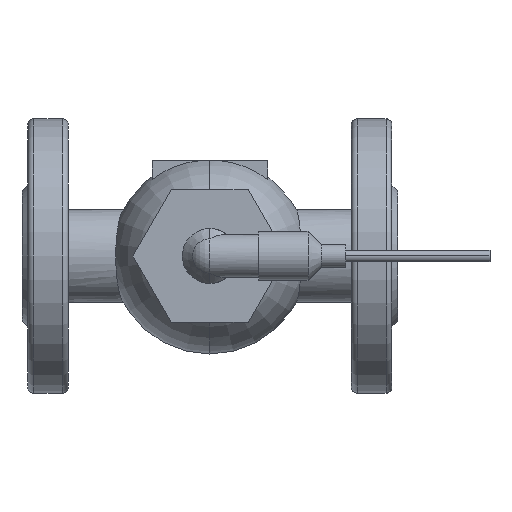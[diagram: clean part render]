
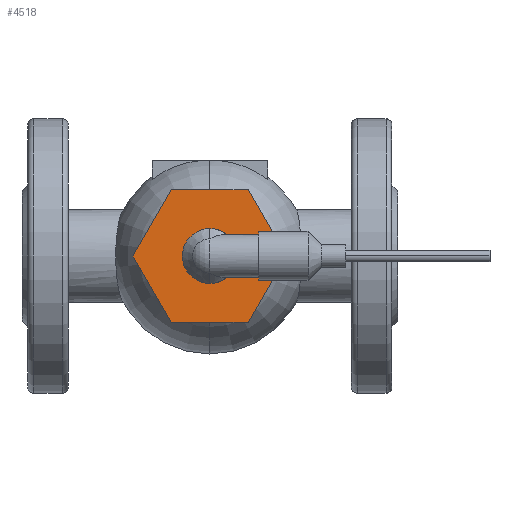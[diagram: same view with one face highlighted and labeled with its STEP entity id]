
A CAD part, front view. The second image highlights one B-rep face of the part: STEP entity #4518.
In plain terms, the highlighted planar face has unit normal (0, -1, 0).
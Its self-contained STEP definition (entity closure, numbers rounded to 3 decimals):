
#592 = DIRECTION ( 'NONE',  ( -1., 0., 0. ) ) ;
#593 = VECTOR ( 'NONE', #592, 1000. ) ;
#594 = CARTESIAN_POINT ( 'NONE',  ( 13.279, -203.585, -23. ) ) ;
#595 = LINE ( 'NONE', #594, #593 ) ;
#709 = CARTESIAN_POINT ( 'NONE',  ( -13.279, -203.585, 23. ) ) ;
#711 = DIRECTION ( 'NONE',  ( 0.5, 0., 0.866 ) ) ;
#712 = VECTOR ( 'NONE', #711, 1000. ) ;
#713 = CARTESIAN_POINT ( 'NONE',  ( -26.558, -203.585, 0. ) ) ;
#714 = LINE ( 'NONE', #713, #712 ) ;
#723 = CARTESIAN_POINT ( 'NONE',  ( -13.279, -203.585, -23. ) ) ;
#738 = CARTESIAN_POINT ( 'NONE',  ( -26.558, -203.585, 0. ) ) ;
#739 = DIRECTION ( 'NONE',  ( -0.5, 0., 0.866 ) ) ;
#740 = VECTOR ( 'NONE', #739, 1000. ) ;
#741 = CARTESIAN_POINT ( 'NONE',  ( -13.279, -203.585, -23. ) ) ;
#742 = LINE ( 'NONE', #741, #740 ) ;
#930 = CARTESIAN_POINT ( 'NONE',  ( 0., -203.585, 8. ) ) ;
#931 = CARTESIAN_POINT ( 'NONE',  ( 0., -203.585, -8. ) ) ;
#932 = DIRECTION ( 'NONE',  ( 0., 0., 1. ) ) ;
#933 = DIRECTION ( 'NONE',  ( 0., -1., 0. ) ) ;
#934 = AXIS2_PLACEMENT_3D ( 'NONE', #941, #933, #932 ) ;
#935 = CIRCLE ( 'NONE', #934, 8. ) ;
#941 = CARTESIAN_POINT ( 'NONE',  ( 0., -203.585, 0. ) ) ;
#1533 = DIRECTION ( 'NONE',  ( 0., 0., 1. ) ) ;
#1534 = DIRECTION ( 'NONE',  ( 0., 1., 0. ) ) ;
#1535 = CARTESIAN_POINT ( 'NONE',  ( 39.837, -203.585, -23. ) ) ;
#1536 = AXIS2_PLACEMENT_3D ( 'NONE', #1535, #1534, #1533 ) ;
#1537 = PLANE ( 'NONE',  #1536 ) ;
#1601 = VECTOR ( 'NONE', #1644, 1000. ) ;
#1602 = CARTESIAN_POINT ( 'NONE',  ( 13.279, -203.585, 23. ) ) ;
#1603 = LINE ( 'NONE', #1602, #1601 ) ;
#1618 = LINE ( 'NONE', #1626, #1625 ) ;
#1623 = CARTESIAN_POINT ( 'NONE',  ( 13.279, -203.585, 23. ) ) ;
#1624 = DIRECTION ( 'NONE',  ( 1., 0., 0. ) ) ;
#1625 = VECTOR ( 'NONE', #1624, 1000. ) ;
#1626 = CARTESIAN_POINT ( 'NONE',  ( -13.279, -203.585, 23. ) ) ;
#1631 = CARTESIAN_POINT ( 'NONE',  ( 13.279, -203.585, -23. ) ) ;
#1632 = DIRECTION ( 'NONE',  ( -0.5, 0., -0.866 ) ) ;
#1633 = VECTOR ( 'NONE', #1632, 1000. ) ;
#1634 = CARTESIAN_POINT ( 'NONE',  ( 26.558, -203.585, 0. ) ) ;
#1635 = LINE ( 'NONE', #1634, #1633 ) ;
#1636 = FACE_OUTER_BOUND ( 'NONE', #4615, .T. ) ;
#1637 = FACE_BOUND ( 'NONE', #4519, .T. ) ;
#1644 = DIRECTION ( 'NONE',  ( 0.5, 0., -0.866 ) ) ;
#1684 = CARTESIAN_POINT ( 'NONE',  ( 26.558, -203.585, 0. ) ) ;
#1807 = DIRECTION ( 'NONE',  ( 0., 0., 1. ) ) ;
#1808 = DIRECTION ( 'NONE',  ( 0., -1., 0. ) ) ;
#1809 = CARTESIAN_POINT ( 'NONE',  ( 0., -203.585, 0. ) ) ;
#1810 = AXIS2_PLACEMENT_3D ( 'NONE', #1809, #1808, #1807 ) ;
#1811 = CIRCLE ( 'NONE', #1810, 8. ) ;
#4107 = VERTEX_POINT ( 'NONE', #723 ) ;
#4125 = EDGE_CURVE ( 'NONE', #4492, #4107, #595, .T. ) ;
#4136 = EDGE_CURVE ( 'NONE', #4107, #4137, #742, .T. ) ;
#4137 = VERTEX_POINT ( 'NONE', #738 ) ;
#4151 = EDGE_CURVE ( 'NONE', #4137, #4152, #714, .T. ) ;
#4152 = VERTEX_POINT ( 'NONE', #709 ) ;
#4267 = EDGE_CURVE ( 'NONE', #4268, #4269, #935, .T. ) ;
#4268 = VERTEX_POINT ( 'NONE', #931 ) ;
#4269 = VERTEX_POINT ( 'NONE', #930 ) ;
#4491 = EDGE_CURVE ( 'NONE', #4607, #4492, #1635, .T. ) ;
#4492 = VERTEX_POINT ( 'NONE', #1631 ) ;
#4507 = EDGE_CURVE ( 'NONE', #4152, #4508, #1618, .T. ) ;
#4508 = VERTEX_POINT ( 'NONE', #1623 ) ;
#4512 = EDGE_CURVE ( 'NONE', #4508, #4607, #1603, .T. ) ;
#4518 = ADVANCED_FACE ( 'NONE', ( #1637, #1636 ), #1537, .F. ) ;
#4519 = EDGE_LOOP ( 'NONE', ( #4520, #4613 ) ) ;
#4520 = ORIENTED_EDGE ( 'NONE', *, *, #4267, .F. ) ;
#4607 = VERTEX_POINT ( 'NONE', #1684 ) ;
#4613 = ORIENTED_EDGE ( 'NONE', *, *, #4614, .F. ) ;
#4614 = EDGE_CURVE ( 'NONE', #4269, #4268, #1811, .T. ) ;
#4615 = EDGE_LOOP ( 'NONE', ( #4616, #4617, #4618, #4619, #4620, #4621 ) ) ;
#4616 = ORIENTED_EDGE ( 'NONE', *, *, #4512, .F. ) ;
#4617 = ORIENTED_EDGE ( 'NONE', *, *, #4507, .F. ) ;
#4618 = ORIENTED_EDGE ( 'NONE', *, *, #4151, .F. ) ;
#4619 = ORIENTED_EDGE ( 'NONE', *, *, #4136, .F. ) ;
#4620 = ORIENTED_EDGE ( 'NONE', *, *, #4125, .F. ) ;
#4621 = ORIENTED_EDGE ( 'NONE', *, *, #4491, .F. ) ;
